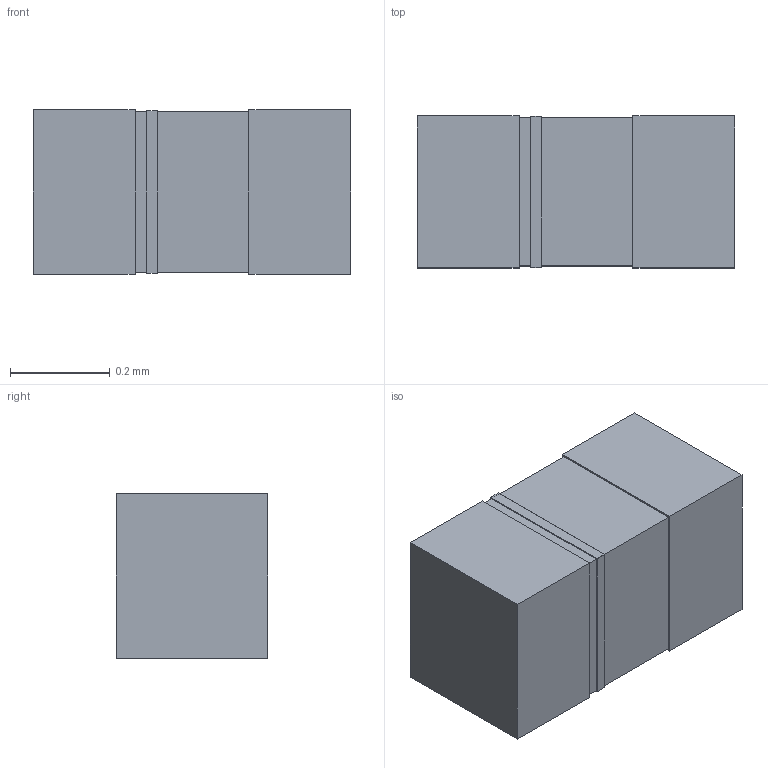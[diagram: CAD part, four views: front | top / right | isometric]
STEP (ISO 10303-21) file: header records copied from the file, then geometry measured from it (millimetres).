
FILE_DESCRIPTION(('STEP AP214'),'1');
FILE_NAME('0201_AVX','2021-08-29T12:25:02',(''),(''),'','','');
FILE_SCHEMA(('AUTOMOTIVE_DESIGN'));
Length unit declared in the file: millimetre
Products named in the file (1): product
Bounding box: 0.64 x 0.3 x 0.33 mm (x, y, z)
Volume: 0.1 mm3; surface area: 1.5 mm2
Topology: 4 solids, 4 shells, 30 faces, 64 edges, 40 vertices
Faces by surface type: plane 30
Entity records: 799 total; most frequent: ORIENTED_EDGE 128, DIRECTION 126, CARTESIAN_POINT 71, EDGE_CURVE 64, LINE 64, VECTOR 64, VERTEX_POINT 40, AXIS2_PLACEMENT_3D 31
